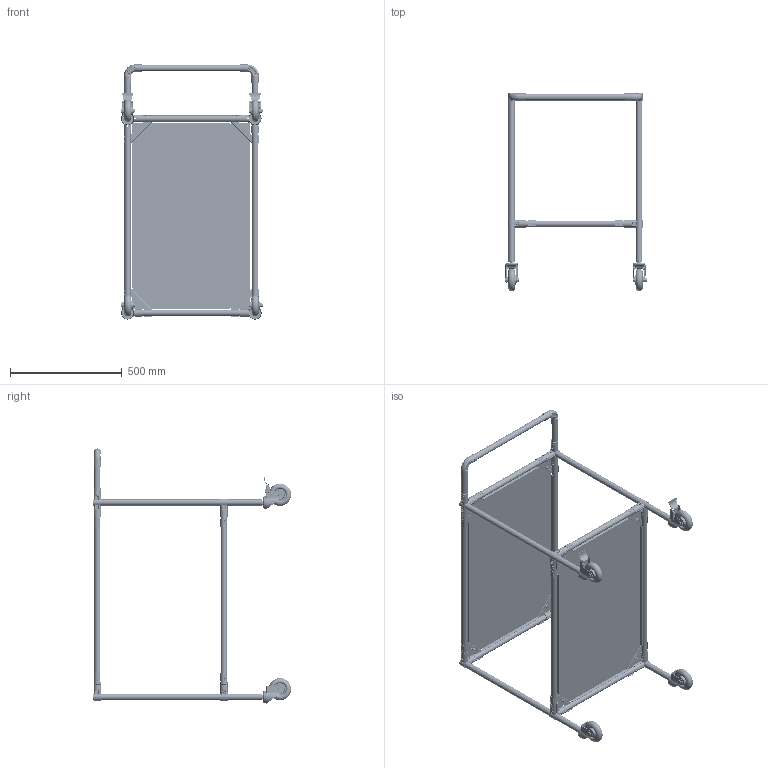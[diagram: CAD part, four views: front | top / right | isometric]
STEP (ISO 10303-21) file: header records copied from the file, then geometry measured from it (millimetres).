
FILE_DESCRIPTION (( 'STEP AP214' ), '1' );
FILE_NAME ('RSI-MST-900x600x900-2.STEP', '2026-01-28T08:14:58', ( '' ), ( '' ), 'SwSTEP 2.0', 'SolidWorks 2022', '' );
FILE_SCHEMA (( 'AUTOMOTIVE_DESIGN' ));
Length unit declared in the file: millimetre
Products named in the file (26): Винт полусфера ISO 7380_М6х16; D-17^df-17b; PR-28X3-A_L=150 мм; PR-28X3-A_L=500 мм; Шайба DIN125_6; RSI-MST-900x600x900-2; Гайка DIN934_M6; df-3b_Для сборки; FHJ-405; F-170; fh-1010b; F-170^df-17b; D-3; F-180-1^df-17b; df-2b_Кронштейн соединительный DF2B; D-2; df-17b_Кронштейн соединительный DF17B; F-180-1; D-4; FHJ-404; PR-28X3-A_L=750 мм; Шайба DIN7980_D8 DIN 7980; f-110-x.stp; PR-28X3-A_L=800 мм; Зеркально отразитьfh-1010b
Assembly tree (96 placements, depth 3):
  RSI-MST-900x600x900-2
    PR-28X3-A_L=800 мм  x4
    df-2b_Кронштейн соединительный DF2B  x6
      D-2
      D-3
      F-180-1
      F-170
    PR-28X3-A_L=750 мм  x4
    df-3b_Для сборки  x2
      D-4
      D-2
      F-180-1
      F-170
    PR-28X3-A_L=500 мм  x5
    PR-28X3-A_L=150 мм  x2
    df-17b_Кронштейн соединительный DF17B  x2
      D-17^df-17b
      F-180-1^df-17b
      F-170^df-17b
    f-110-x.stp  x4
    FHJ-405  x2
    FHJ-404  x2
    fh-1010b  x4
    Зеркально отразитьfh-1010b  x4
    RSI-MST-900x600x900-2  x2
    Винт полусфера ISO 7380_М6х16  x8
    Шайба DIN125_6  x8
    Шайба DIN7980_D8 DIN 7980  x8
    Гайка DIN934_M6  x8
Bounding box: 635 x 887.4 x 1142.5 mm (x, y, z)
Volume: 5558866.9 mm3; surface area: 4029200.7 mm2
Topology: 133 solids, 133 shells, 7934 faces, 20274 edges, 12932 vertices
Faces by surface type: cylinder 3264, plane 2192, bspline 1112, cone 658, torus 548, sphere 160
Entity records: 102866 total; most frequent: CARTESIAN_POINT 59504, ORIENTED_EDGE 8696, DIRECTION 7343, EDGE_CURVE 4348, AXIS2_PLACEMENT_3D 2903, VERTEX_POINT 2766, EDGE_LOOP 1874, ADVANCED_FACE 1718
